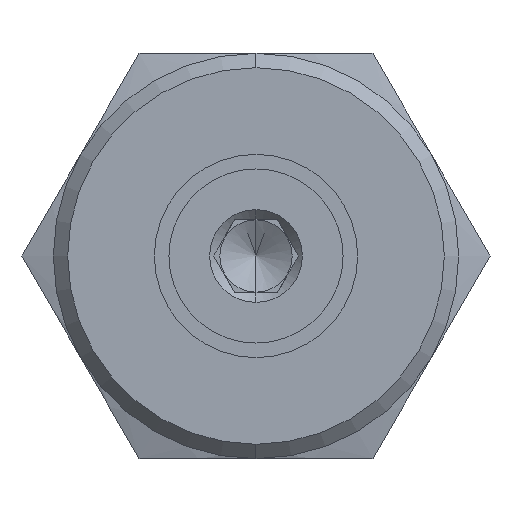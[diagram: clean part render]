
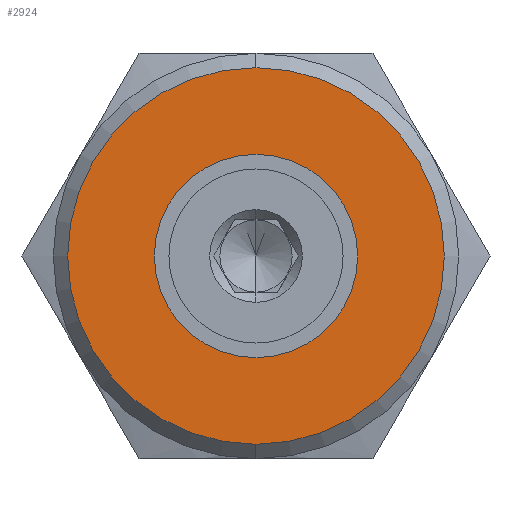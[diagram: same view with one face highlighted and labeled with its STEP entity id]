
A CAD part, left-side view. The second image highlights one B-rep face of the part: STEP entity #2924.
In plain terms, the highlighted planar face has unit normal (-1, 0, 0).
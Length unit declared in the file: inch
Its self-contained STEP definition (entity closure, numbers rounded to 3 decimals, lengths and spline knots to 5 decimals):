
#1950=CARTESIAN_POINT('',(-1.673,0.,-0.4065));
#1951=VERTEX_POINT('',#1950);
#1960=CARTESIAN_POINT('',(-1.673,0.,0.4065));
#1961=VERTEX_POINT('',#1960);
#1962=CARTESIAN_POINT('',(-1.673,0.,0.));
#1963=DIRECTION('',(1.0,0.0,0.0));
#1964=DIRECTION('',(0.0,0.0,-1.0));
#1965=AXIS2_PLACEMENT_3D('',#1962,#1963,#1964);
#1966=CIRCLE('',#1965,0.4065);
#1967=EDGE_CURVE('',#1951,#1961,#1966,.T.);
#2104=CARTESIAN_POINT('',(-1.673,0.,-0.2195));
#2105=VERTEX_POINT('',#2104);
#2121=CARTESIAN_POINT('',(-1.673,0.,0.2195));
#2122=VERTEX_POINT('',#2121);
#2129=CARTESIAN_POINT('',(-1.673,0.,0.));
#2130=DIRECTION('',(1.0,0.0,0.0));
#2131=DIRECTION('',(0.0,0.0,-1.0));
#2132=AXIS2_PLACEMENT_3D('',#2129,#2130,#2131);
#2133=CIRCLE('',#2132,0.2195);
#2134=EDGE_CURVE('',#2105,#2122,#2133,.T.);
#2237=CARTESIAN_POINT('',(-1.673,0.,0.));
#2238=DIRECTION('',(1.0,0.0,0.0));
#2239=DIRECTION('',(0.0,0.0,-1.0));
#2240=AXIS2_PLACEMENT_3D('',#2237,#2238,#2239);
#2241=CIRCLE('',#2240,0.2195);
#2242=EDGE_CURVE('',#2122,#2105,#2241,.T.);
#2905=CARTESIAN_POINT('',(-1.673,0.,-0.20325));
#2906=DIRECTION('',(-1.0,0.0,0.0));
#2907=DIRECTION('',(0.0,-1.0,0.0));
#2908=AXIS2_PLACEMENT_3D('',#2905,#2906,#2907);
#2909=PLANE('',#2908);
#2910=ORIENTED_EDGE('',*,*,#1967,.F.);
#2911=CARTESIAN_POINT('',(-1.673,0.,0.));
#2912=DIRECTION('',(1.0,0.0,0.0));
#2913=DIRECTION('',(0.0,0.0,-1.0));
#2914=AXIS2_PLACEMENT_3D('',#2911,#2912,#2913);
#2915=CIRCLE('',#2914,0.4065);
#2916=EDGE_CURVE('',#1961,#1951,#2915,.T.);
#2917=ORIENTED_EDGE('',*,*,#2916,.F.);
#2918=EDGE_LOOP('',(#2910,#2917));
#2919=FACE_OUTER_BOUND('',#2918,.T.);
#2920=ORIENTED_EDGE('',*,*,#2134,.T.);
#2921=ORIENTED_EDGE('',*,*,#2242,.T.);
#2922=EDGE_LOOP('',(#2920,#2921));
#2923=FACE_BOUND('',#2922,.T.);
#2924=ADVANCED_FACE('',(#2919,#2923),#2909,.T.);
